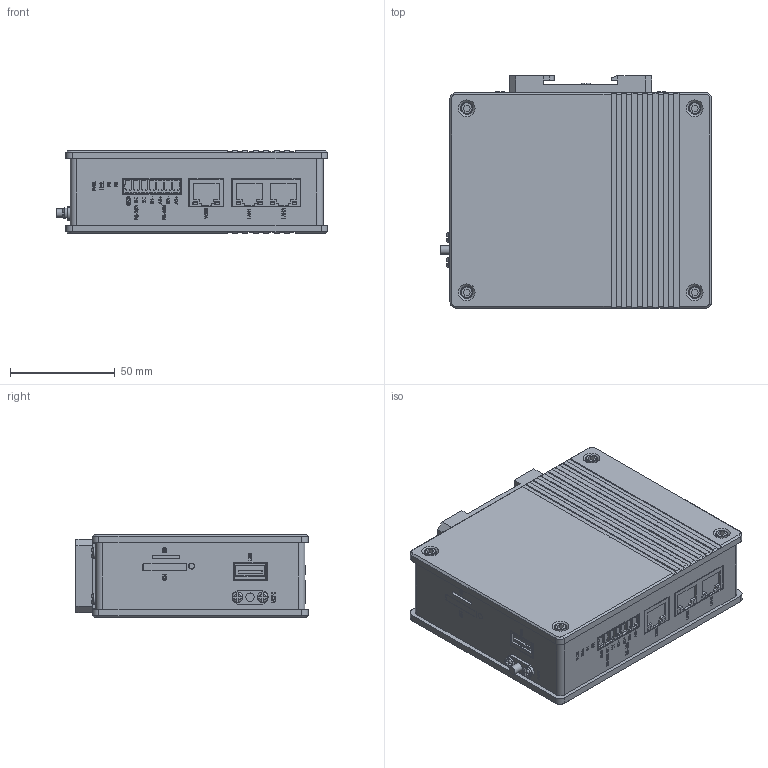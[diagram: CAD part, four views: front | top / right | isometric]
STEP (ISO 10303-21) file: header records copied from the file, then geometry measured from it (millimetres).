
FILE_DESCRIPTION( ('This file contains a STEP AP42 implementation' ,'as created by ZW3D STEP Interface translator.') ,'2;1' );
FILE_NAME( 'VT-HDX-WIFI.stp' ,'241119.163953', (''), ('ZWCAD Software Co.'), 'Version 1.0', 'ZW3D to STEP translator', '' );
FILE_SCHEMA(('AUTOMOTIVE_DESIGN { 1 0 10303 214 1 1 1 1 }'));
Length unit declared in the file: millimetre
Products named in the file (2): 0; HC-HDMI
Bounding box: 129.5 x 111 x 39.6 mm (x, y, z)
Volume: 497559 mm3; surface area: 53021.1 mm2
Topology: 8 solids, 125 shells, 1388 faces, 4022 edges, 2843 vertices
Faces by surface type: plane 1050, cylinder 219, torus 44, cone 43, sphere 24, bspline 8
Full cylindrical faces by diameter (mm): 2.5 x12, 2.6 x7, 2.8 x2, 3.5 x5, 3.7 x1, 4 x1, 5 x11, 5.5 x8, 6 x8
Entity records: 53925 total; most frequent: CARTESIAN_POINT 16327, ORIENTED_EDGE 7381, DIRECTION 7067, EDGE_CURVE 4022, VECTOR 2849, LINE 2849, VERTEX_POINT 2843, AXIS2_PLACEMENT_3D 2109
